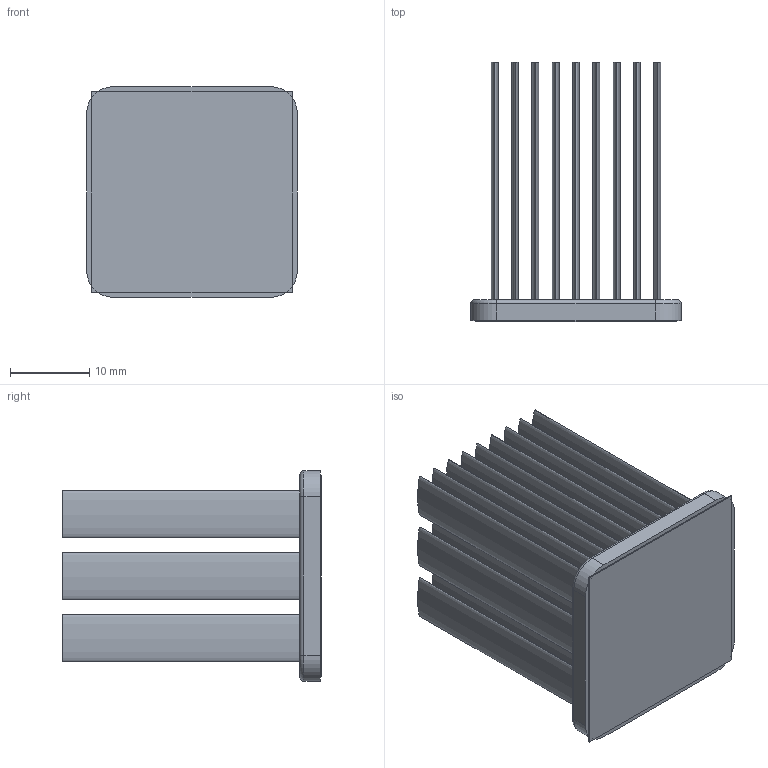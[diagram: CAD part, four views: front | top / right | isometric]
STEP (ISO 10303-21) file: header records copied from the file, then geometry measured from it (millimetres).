
FILE_DESCRIPTION (( 'STEP AP214' ), '1' );
FILE_NAME ('INM27001-33W_2.6 (NONE).STEP', '2023-02-17T18:35:45', ( '' ), ( '' ), 'SwSTEP 2.0', 'SolidWorks 2020', '' );
FILE_SCHEMA (( 'AUTOMOTIVE_DESIGN' ));
Length unit declared in the file: inch
Products named in the file (1): INM27001-33W_2.6 (NONE)
Bounding box: 26.6 x 32.73 x 26.6 mm (x, y, z)
Volume: 5171.3 mm3; surface area: 12896.3 mm2
Topology: 2 solids, 2 shells, 105 faces, 214 edges, 140 vertices
Faces by surface type: bspline 54, plane 39, cylinder 8, torus 4
Entity records: 4282 total; most frequent: CARTESIAN_POINT 1162, ORIENTED_EDGE 428, DIRECTION 230, EDGE_CURVE 214, VERTEX_POINT 140, EDGE_LOOP 132, LENGTH_MEASURE_WITH_UNIT 109, UNCERTAINTY_MEASURE_WITH_UNIT 109
